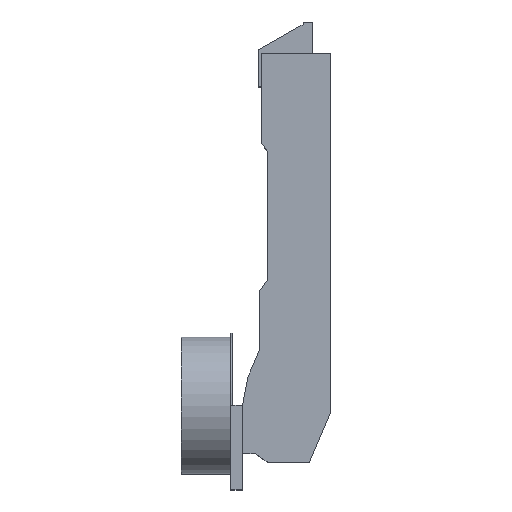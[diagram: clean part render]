
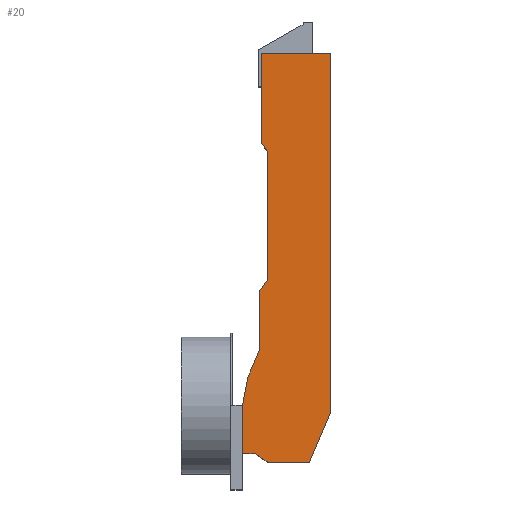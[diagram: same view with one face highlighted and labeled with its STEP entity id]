
A CAD part, top view. The second image highlights one B-rep face of the part: STEP entity #20.
In plain terms, the highlighted planar face has unit normal (0, 0, 1).
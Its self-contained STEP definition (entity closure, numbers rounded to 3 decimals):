
#20 = ADVANCED_FACE ( 'NONE', ( #1211 ), #220, .T. ) ;
#55 = VERTEX_POINT ( 'NONE', #570 ) ;
#58 = VERTEX_POINT ( 'NONE', #322 ) ;
#64 = VERTEX_POINT ( 'NONE', #578 ) ;
#72 = VERTEX_POINT ( 'NONE', #571 ) ;
#78 = VERTEX_POINT ( 'NONE', #586 ) ;
#105 = VERTEX_POINT ( 'NONE', #661 ) ;
#106 = VERTEX_POINT ( 'NONE', #634 ) ;
#109 = VERTEX_POINT ( 'NONE', #700 ) ;
#116 = VERTEX_POINT ( 'NONE', #380 ) ;
#127 = VERTEX_POINT ( 'NONE', #652 ) ;
#131 = VERTEX_POINT ( 'NONE', #633 ) ;
#134 = VERTEX_POINT ( 'NONE', #636 ) ;
#166 = LINE ( 'NONE', #677, #167 ) ;
#167 = VECTOR ( 'NONE', #679, 1000. ) ;
#170 = LINE ( 'NONE', #471, #171 ) ;
#171 = VECTOR ( 'NONE', #548, 1000. ) ;
#196 = LINE ( 'NONE', #744, #198 ) ;
#198 = VECTOR ( 'NONE', #711, 1000. ) ;
#214 = DIRECTION ( 'NONE',  ( 0.392, 0.92, 0. ) ) ;
#220 = PLANE ( 'NONE',  #1549 ) ;
#254 = CARTESIAN_POINT ( 'NONE',  ( 6.295, -14.594, 8.5 ) ) ;
#261 = DIRECTION ( 'NONE',  ( 1., 0., 0. ) ) ;
#275 = DIRECTION ( 'NONE',  ( 0.819, -0.574, 0. ) ) ;
#286 = CARTESIAN_POINT ( 'NONE',  ( 16.783, -14.594, 8.5 ) ) ;
#291 = DIRECTION ( 'NONE',  ( 0., -1., 0. ) ) ;
#311 = CARTESIAN_POINT ( 'NONE',  ( 3.01, -12.294, 8.5 ) ) ;
#322 = CARTESIAN_POINT ( 'NONE',  ( 4.5, 67.242, 8.5 ) ) ;
#370 = DIRECTION ( 'NONE',  ( 0., -1., 0. ) ) ;
#375 = DIRECTION ( 'NONE',  ( 0.574, -0.819, 0. ) ) ;
#380 = CARTESIAN_POINT ( 'NONE',  ( -0.3, 0., 8.5 ) ) ;
#381 = CARTESIAN_POINT ( 'NONE',  ( 1.11, 7.296, 8.5 ) ) ;
#419 = CARTESIAN_POINT ( 'NONE',  ( 4.01, 29.266, 8.5 ) ) ;
#456 = DIRECTION ( 'NONE',  ( -0.392, -0.92, 0. ) ) ;
#461 = CARTESIAN_POINT ( 'NONE',  ( -0.3, 0., 8.5 ) ) ;
#462 = DIRECTION ( 'NONE',  ( 0., -1., 0. ) ) ;
#471 = CARTESIAN_POINT ( 'NONE',  ( 22.25, 90.1, 8.5 ) ) ;
#474 = CARTESIAN_POINT ( 'NONE',  ( 6., 32.108, 8.5 ) ) ;
#485 = CARTESIAN_POINT ( 'NONE',  ( 1.11, 7.296, 8.5 ) ) ;
#500 = DIRECTION ( 'NONE',  ( -0.19, -0.982, 0. ) ) ;
#501 = VERTEX_POINT ( 'NONE', #485 ) ;
#506 = CARTESIAN_POINT ( 'NONE',  ( -0.3, 0., 8.5 ) ) ;
#510 = DIRECTION ( 'NONE',  ( -0.574, -0.819, 0. ) ) ;
#528 = VERTEX_POINT ( 'NONE', #656 ) ;
#548 = DIRECTION ( 'NONE',  ( -1., 0., 0. ) ) ;
#570 = CARTESIAN_POINT ( 'NONE',  ( 6., 65.1, 8.5 ) ) ;
#571 = CARTESIAN_POINT ( 'NONE',  ( 4.01, 29.266, 8.5 ) ) ;
#578 = CARTESIAN_POINT ( 'NONE',  ( 4.5, 90.1, 8.5 ) ) ;
#586 = CARTESIAN_POINT ( 'NONE',  ( 3.01, -12.294, 8.5 ) ) ;
#633 = CARTESIAN_POINT ( 'NONE',  ( 6., 32.108, 8.5 ) ) ;
#634 = CARTESIAN_POINT ( 'NONE',  ( 6.295, -14.594, 8.5 ) ) ;
#636 = CARTESIAN_POINT ( 'NONE',  ( -0.3, -12.294, 8.5 ) ) ;
#652 = CARTESIAN_POINT ( 'NONE',  ( 22.25, -1.744, 8.5 ) ) ;
#653 = CARTESIAN_POINT ( 'NONE',  ( 4.5, 67.242, 8.5 ) ) ;
#656 = CARTESIAN_POINT ( 'NONE',  ( 22.25, 90.1, 8.5 ) ) ;
#659 = CARTESIAN_POINT ( 'NONE',  ( 22.25, -1.744, 8.5 ) ) ;
#661 = CARTESIAN_POINT ( 'NONE',  ( 16.783, -14.594, 8.5 ) ) ;
#668 = DIRECTION ( 'NONE',  ( 0., 1., 0. ) ) ;
#677 = CARTESIAN_POINT ( 'NONE',  ( -0.3, -12.294, 8.5 ) ) ;
#679 = DIRECTION ( 'NONE',  ( 1., 0., 0. ) ) ;
#700 = CARTESIAN_POINT ( 'NONE',  ( 4.01, 14.096, 8.5 ) ) ;
#709 = DIRECTION ( 'NONE',  ( 0., 0., 1. ) ) ;
#711 = DIRECTION ( 'NONE',  ( 0., -1., 0. ) ) ;
#744 = CARTESIAN_POINT ( 'NONE',  ( 4.01, 14.096, 8.5 ) ) ;
#750 = CARTESIAN_POINT ( 'NONE',  ( 6., 65.1, 8.5 ) ) ;
#760 = CARTESIAN_POINT ( 'NONE',  ( -0.3, -12.294, 8.5 ) ) ;
#772 = DIRECTION ( 'NONE',  ( 0., -1., 0. ) ) ;
#834 = VECTOR ( 'NONE', #370, 1000. ) ;
#844 = LINE ( 'NONE', #461, #834 ) ;
#862 = VECTOR ( 'NONE', #500, 1000. ) ;
#863 = LINE ( 'NONE', #506, #862 ) ;
#1046 = ORIENTED_EDGE ( 'NONE', *, *, #1459, .T. ) ;
#1047 = ORIENTED_EDGE ( 'NONE', *, *, #1454, .T. ) ;
#1048 = ORIENTED_EDGE ( 'NONE', *, *, #1565, .T. ) ;
#1049 = ORIENTED_EDGE ( 'NONE', *, *, #1458, .T. ) ;
#1050 = ORIENTED_EDGE ( 'NONE', *, *, #1456, .T. ) ;
#1051 = ORIENTED_EDGE ( 'NONE', *, *, #1449, .T. ) ;
#1052 = ORIENTED_EDGE ( 'NONE', *, *, #1365, .T. ) ;
#1053 = ORIENTED_EDGE ( 'NONE', *, *, #1532, .T. ) ;
#1054 = ORIENTED_EDGE ( 'NONE', *, *, #1440, .T. ) ;
#1055 = ORIENTED_EDGE ( 'NONE', *, *, #1430, .T. ) ;
#1056 = ORIENTED_EDGE ( 'NONE', *, *, #1434, .T. ) ;
#1057 = ORIENTED_EDGE ( 'NONE', *, *, #1425, .T. ) ;
#1058 = ORIENTED_EDGE ( 'NONE', *, *, #1530, .T. ) ;
#1059 = ORIENTED_EDGE ( 'NONE', *, *, #1474, .T. ) ;
#1160 = EDGE_LOOP ( 'NONE', ( #1059, #1058, #1057, #1056, #1055, #1054, #1053, #1052, #1051, #1050, #1049, #1048, #1047, #1046 ) ) ;
#1211 = FACE_OUTER_BOUND ( 'NONE', #1160, .T. ) ;
#1251 = VECTOR ( 'NONE', #261, 1000. ) ;
#1258 = VECTOR ( 'NONE', #214, 1000. ) ;
#1259 = LINE ( 'NONE', #254, #1251 ) ;
#1263 = LINE ( 'NONE', #286, #1258 ) ;
#1268 = VECTOR ( 'NONE', #275, 1000. ) ;
#1275 = LINE ( 'NONE', #311, #1268 ) ;
#1301 = VECTOR ( 'NONE', #291, 1000. ) ;
#1305 = LINE ( 'NONE', #653, #1301 ) ;
#1319 = VECTOR ( 'NONE', #510, 1000. ) ;
#1322 = VECTOR ( 'NONE', #462, 1000. ) ;
#1325 = LINE ( 'NONE', #474, #1322 ) ;
#1329 = LINE ( 'NONE', #381, #1344 ) ;
#1330 = LINE ( 'NONE', #419, #1319 ) ;
#1338 = VECTOR ( 'NONE', #375, 1000. ) ;
#1339 = LINE ( 'NONE', #750, #1338 ) ;
#1344 = VECTOR ( 'NONE', #456, 1000. ) ;
#1354 = VECTOR ( 'NONE', #668, 1000. ) ;
#1355 = LINE ( 'NONE', #659, #1354 ) ;
#1365 = EDGE_CURVE ( 'NONE', #64, #58, #1305, .T. ) ;
#1425 = EDGE_CURVE ( 'NONE', #78, #106, #1275, .T. ) ;
#1430 = EDGE_CURVE ( 'NONE', #105, #127, #1263, .T. ) ;
#1434 = EDGE_CURVE ( 'NONE', #106, #105, #1259, .T. ) ;
#1440 = EDGE_CURVE ( 'NONE', #127, #528, #1355, .T. ) ;
#1449 = EDGE_CURVE ( 'NONE', #58, #55, #1339, .T. ) ;
#1454 = EDGE_CURVE ( 'NONE', #109, #501, #1329, .T. ) ;
#1456 = EDGE_CURVE ( 'NONE', #55, #131, #1325, .T. ) ;
#1458 = EDGE_CURVE ( 'NONE', #131, #72, #1330, .T. ) ;
#1459 = EDGE_CURVE ( 'NONE', #501, #116, #863, .T. ) ;
#1474 = EDGE_CURVE ( 'NONE', #116, #134, #844, .T. ) ;
#1530 = EDGE_CURVE ( 'NONE', #134, #78, #166, .T. ) ;
#1532 = EDGE_CURVE ( 'NONE', #528, #64, #170, .T. ) ;
#1549 = AXIS2_PLACEMENT_3D ( 'NONE', #760, #709, #772 ) ;
#1565 = EDGE_CURVE ( 'NONE', #72, #109, #196, .T. ) ;
